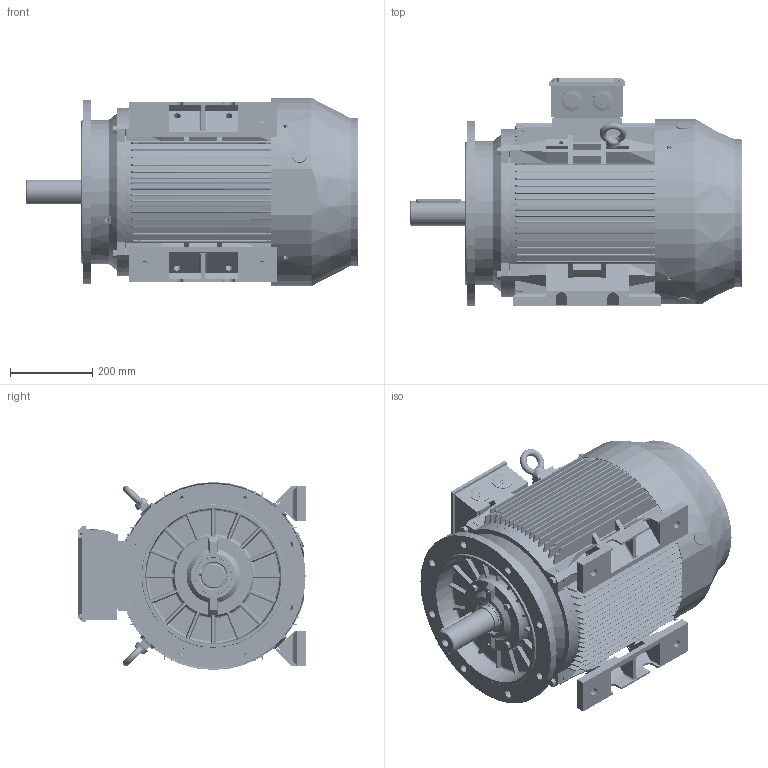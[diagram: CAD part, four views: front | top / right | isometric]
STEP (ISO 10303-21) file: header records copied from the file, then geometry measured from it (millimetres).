
FILE_DESCRIPTION (( 'STEP AP203' ), '1' );
FILE_NAME ('TC 225S B35外形图.STEP', '2013-06-25T07:48:47', ( '微软用户' ), ( '微软中国' ), 'SwSTEP 2.0', 'SolidWorks 2008', '' );
FILE_SCHEMA (( 'CONFIG_CONTROL_DESIGN' ));
Length unit declared in the file: millimetre
Products named in the file (28): TC 225 轴承外盖NDE_默认; TC 225S转子_默认; M6-20_默认; 油封65-90-10_默认; TC 225 轴承外盖DE_默认; TC 225-4P 风叶_默认; 螺塞M40_默认; 铜油嘴_默认; M12-45_默认; M6-10_默认; 吊环M16_默认; TC 225S B35俋倛芞; TC225S B5机座_默认; TC225S 底脚_默认; TC 225 B3 端盖(后）_默认; TC 225S-4.6.8 轴_默认; 6313_默认; TC 225 B5 端盖_默认; TC 225 轴承内盖_默认; TC 200-225接线盒_默认; TC 200-225接线盒座_默认; TC 200-225接线盒盖_默认; 扣塞_默认; M10-70_默认; 10_默认; 12_默认; 平键18-110_默认; TC 225风罩_默认
Assembly tree (53 placements, depth 3):
  TC 225S B35俋倛芞
    M10-70_默认  x4
    油封65-90-10_默认  x2
    M6-10_默认  x4
    TC225S 底脚_默认  x2
    TC 225 轴承内盖_默认  x2
    10_默认  x4
    12_默认  x4
    TC 225S转子_默认
      6313_默认  x2
      TC 225S-4.6.8 轴_默认
    TC 225-4P 风叶_默认
    TC225S B5机座_默认
    TC 225 B3 端盖(后）_默认
    扣塞_默认  x2
    TC 225风罩_默认
    TC 225 B5 端盖_默认
    铜油嘴_默认  x2
    M12-45_默认  x4
    吊环M16_默认  x2
    TC 225 轴承外盖NDE_默认
    TC 225 轴承外盖DE_默认
    平键18-110_默认
    TC 200-225接线盒_默认
      螺塞M40_默认  x2
      TC 200-225接线盒座_默认
      TC 200-225接线盒盖_默认
      M6-20_默认  x4
Bounding box: 809.52 x 554 x 458.4 mm (x, y, z)
Volume: 22374480.4 mm3; surface area: 5258629.1 mm2
Topology: 53 solids, 54 shells, 8042 faces, 23244 edges, 15314 vertices
Faces by surface type: plane 3971, cylinder 3098, cone 425, torus 362, bspline 122, sphere 64
Entity records: 257561 total; most frequent: CARTESIAN_POINT 61701, ORIENTED_EDGE 41098, DIRECTION 39466, EDGE_CURVE 20549, AXIS2_PLACEMENT_3D 13716, VERTEX_POINT 13590, VECTOR 12034, LINE 12034
